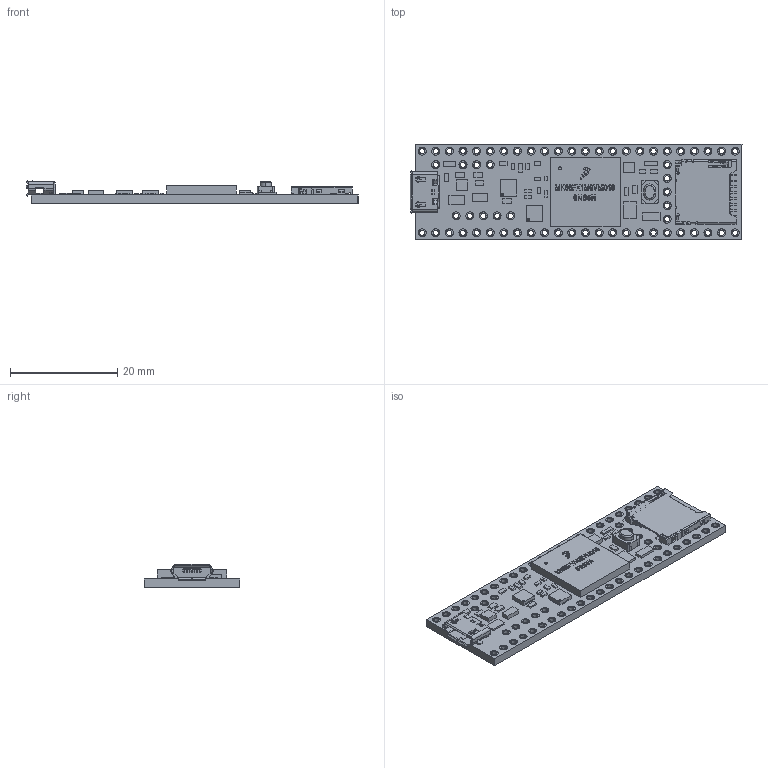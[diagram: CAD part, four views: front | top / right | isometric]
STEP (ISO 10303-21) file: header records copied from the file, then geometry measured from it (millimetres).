
FILE_DESCRIPTION(('CATIA V5 STEP'),'2;1');
FILE_NAME('E:\catia_home\CAD\catia_halsbury\TEENSY_3_6_v04.stp','2017-04-06T20:14:42+00:00',('none'),('none'),'CATIA Version 5 Release 20 SP 1 (IN-10)','CATIA V5 STEP AP214','none');
FILE_SCHEMA(('AUTOMOTIVE_DESIGN { 1 0 10303 214 1 1 1 1 }'));
Products named in the file (10): TEENSY_3_6_v02; switch; K66-CHIP; QFN-16 (3x3); QFN-16 (3x3) Part1; QFN-16 (3x3) Part2; 114; micro_usb_47346-0001; TEENSY_3_6_pcb; TEENSY_3_6_passives
Assembly tree (25 placements, depth 3):
  TEENSY_3_6_v02
    switch
    K66-CHIP
    QFN-16 (3x3)  x2
      QFN-16 (3x3) Part1
      QFN-16 (3x3) Part2
    114
    micro_usb_47346-0001
    TEENSY_3_6_pcb
    TEENSY_3_6_passives
Bounding box: 61.96 x 17.88 x 4.29 mm (x, y, z)
Volume: 2108.3 mm3; surface area: 4251 mm2
Topology: 72 solids, 73 shells, 3311 faces, 8277 edges, 5256 vertices
Faces by surface type: plane 2126, cylinder 1028, extrusion 81, torus 32, bspline 30, sphere 12, cone 2
Entity records: 101599 total; most frequent: CARTESIAN_POINT 28503, ORIENTED_EDGE 15284, DIRECTION 11555, EDGE_CURVE 7642, VECTOR 5310, LINE 5229, VERTEX_POINT 4841, AXIS2_PLACEMENT_3D 3728
